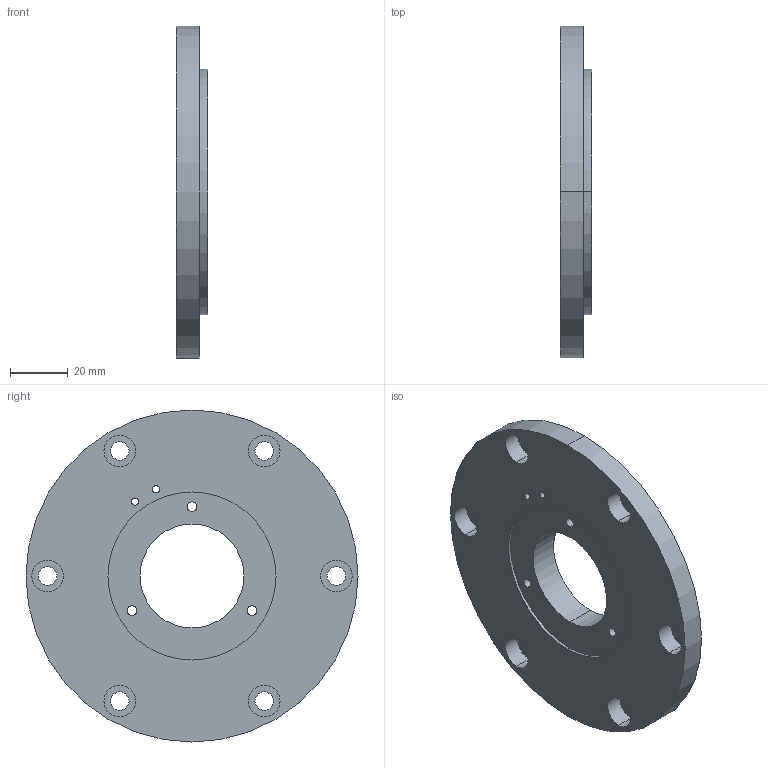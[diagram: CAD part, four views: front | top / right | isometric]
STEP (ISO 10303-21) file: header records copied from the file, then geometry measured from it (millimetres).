
FILE_DESCRIPTION (( 'STEP AP214' ), '1' );
FILE_NAME ('8.0010.2160.0000.STEP', '2014-11-06T12:46:28', ( 'admin' ), ( 'Microsoft' ), 'SwSTEP 2.0', 'SolidWorks 2013', '' );
FILE_SCHEMA (( 'AUTOMOTIVE_DESIGN' ));
Length unit declared in the file: millimetre
Products named in the file (1): 8.0010.2160.0000
Bounding box: 11 x 115 x 115 mm (x, y, z)
Volume: 83022.9 mm3; surface area: 25237.4 mm2
Topology: 1 solids, 1 shells, 62 faces, 146 edges, 94 vertices
Faces by surface type: cylinder 42, cone 10, plane 10
Entity records: 1928 total; most frequent: DIRECTION 366, CARTESIAN_POINT 303, ORIENTED_EDGE 292, AXIS2_PLACEMENT_3D 157, EDGE_CURVE 146, VERTEX_POINT 94, EDGE_LOOP 94, CIRCLE 94
